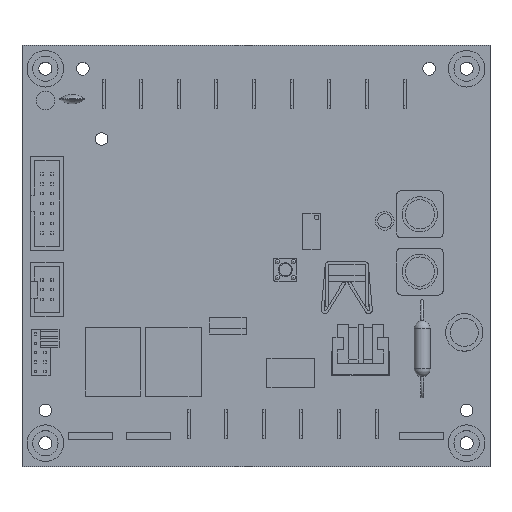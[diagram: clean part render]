
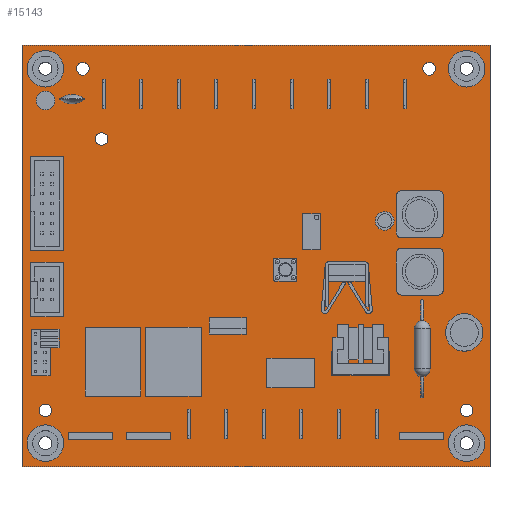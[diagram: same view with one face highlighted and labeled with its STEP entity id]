
A CAD part, top view. The second image highlights one B-rep face of the part: STEP entity #15143.
In plain terms, the highlighted planar face has unit normal (0, 0, 1).
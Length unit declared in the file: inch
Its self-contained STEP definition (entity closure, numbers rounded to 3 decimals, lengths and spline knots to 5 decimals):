
#512=FACE_BOUND('',#2481,.T.);
#513=FACE_BOUND('',#2482,.T.);
#514=FACE_BOUND('',#2483,.T.);
#515=FACE_BOUND('',#2484,.T.);
#516=FACE_BOUND('',#2485,.T.);
#517=FACE_BOUND('',#2486,.T.);
#518=FACE_BOUND('',#2487,.T.);
#519=FACE_BOUND('',#2488,.T.);
#520=FACE_BOUND('',#2489,.T.);
#1414=FACE_OUTER_BOUND('',#2480,.T.);
#2480=EDGE_LOOP('',(#13472,#13473,#13474,#13475));
#2481=EDGE_LOOP('',(#13476));
#2482=EDGE_LOOP('',(#13477));
#2483=EDGE_LOOP('',(#13478));
#2484=EDGE_LOOP('',(#13479));
#2485=EDGE_LOOP('',(#13480));
#2486=EDGE_LOOP('',(#13481));
#2487=EDGE_LOOP('',(#13482));
#2488=EDGE_LOOP('',(#13483));
#2489=EDGE_LOOP('',(#13484));
#2737=CIRCLE('',#16337,0.0675);
#2739=CIRCLE('',#16340,0.0675);
#2741=CIRCLE('',#16343,0.0675);
#2743=CIRCLE('',#16346,0.0675);
#2745=CIRCLE('',#16349,0.0675);
#2747=CIRCLE('',#16352,0.1175);
#2749=CIRCLE('',#16355,0.1175);
#2751=CIRCLE('',#16358,0.1175);
#2753=CIRCLE('',#16361,0.1175);
#4450=LINE('',#25301,#6158);
#4451=LINE('',#25303,#6159);
#4452=LINE('',#25305,#6160);
#4453=LINE('',#25306,#6161);
#6158=VECTOR('',#20336,0.3937);
#6159=VECTOR('',#20337,0.3937);
#6160=VECTOR('',#20338,0.3937);
#6161=VECTOR('',#20339,0.3937);
#7513=VERTEX_POINT('',#25256);
#7515=VERTEX_POINT('',#25261);
#7517=VERTEX_POINT('',#25266);
#7519=VERTEX_POINT('',#25271);
#7521=VERTEX_POINT('',#25276);
#7523=VERTEX_POINT('',#25281);
#7525=VERTEX_POINT('',#25286);
#7527=VERTEX_POINT('',#25291);
#7529=VERTEX_POINT('',#25296);
#7530=VERTEX_POINT('',#25299);
#7531=VERTEX_POINT('',#25300);
#7532=VERTEX_POINT('',#25302);
#7533=VERTEX_POINT('',#25304);
#9501=EDGE_CURVE('',#7513,#7513,#2737,.T.);
#9503=EDGE_CURVE('',#7515,#7515,#2739,.T.);
#9505=EDGE_CURVE('',#7517,#7517,#2741,.T.);
#9507=EDGE_CURVE('',#7519,#7519,#2743,.T.);
#9509=EDGE_CURVE('',#7521,#7521,#2745,.T.);
#9511=EDGE_CURVE('',#7523,#7523,#2747,.T.);
#9513=EDGE_CURVE('',#7525,#7525,#2749,.T.);
#9515=EDGE_CURVE('',#7527,#7527,#2751,.T.);
#9517=EDGE_CURVE('',#7529,#7529,#2753,.T.);
#9518=EDGE_CURVE('',#7530,#7531,#4450,.T.);
#9519=EDGE_CURVE('',#7531,#7532,#4451,.T.);
#9520=EDGE_CURVE('',#7532,#7533,#4452,.T.);
#9521=EDGE_CURVE('',#7533,#7530,#4453,.T.);
#13472=ORIENTED_EDGE('',*,*,#9518,.T.);
#13473=ORIENTED_EDGE('',*,*,#9519,.T.);
#13474=ORIENTED_EDGE('',*,*,#9520,.T.);
#13475=ORIENTED_EDGE('',*,*,#9521,.T.);
#13476=ORIENTED_EDGE('',*,*,#9501,.T.);
#13477=ORIENTED_EDGE('',*,*,#9503,.T.);
#13478=ORIENTED_EDGE('',*,*,#9505,.T.);
#13479=ORIENTED_EDGE('',*,*,#9507,.T.);
#13480=ORIENTED_EDGE('',*,*,#9509,.T.);
#13481=ORIENTED_EDGE('',*,*,#9511,.T.);
#13482=ORIENTED_EDGE('',*,*,#9513,.T.);
#13483=ORIENTED_EDGE('',*,*,#9515,.T.);
#13484=ORIENTED_EDGE('',*,*,#9517,.T.);
#14253=PLANE('',#16362);
#15143=ADVANCED_FACE('',(#1414,#512,#513,#514,#515,#516,#517,#518,#519,
#520),#14253,.T.);
#16337=AXIS2_PLACEMENT_3D('',#25257,#20284,#20285);
#16340=AXIS2_PLACEMENT_3D('',#25262,#20290,#20291);
#16343=AXIS2_PLACEMENT_3D('',#25267,#20296,#20297);
#16346=AXIS2_PLACEMENT_3D('',#25272,#20302,#20303);
#16349=AXIS2_PLACEMENT_3D('',#25277,#20308,#20309);
#16352=AXIS2_PLACEMENT_3D('',#25282,#20314,#20315);
#16355=AXIS2_PLACEMENT_3D('',#25287,#20320,#20321);
#16358=AXIS2_PLACEMENT_3D('',#25292,#20326,#20327);
#16361=AXIS2_PLACEMENT_3D('',#25297,#20332,#20333);
#16362=AXIS2_PLACEMENT_3D('',#25298,#20334,#20335);
#20284=DIRECTION('center_axis',(0.,0.,-1.));
#20285=DIRECTION('ref_axis',(-1.,0.,0.));
#20290=DIRECTION('center_axis',(0.,0.,-1.));
#20291=DIRECTION('ref_axis',(0.,-1.,0.));
#20296=DIRECTION('center_axis',(0.,0.,-1.));
#20297=DIRECTION('ref_axis',(0.,-1.,0.));
#20302=DIRECTION('center_axis',(0.,0.,-1.));
#20303=DIRECTION('ref_axis',(0.,-1.,0.));
#20308=DIRECTION('center_axis',(0.,0.,-1.));
#20309=DIRECTION('ref_axis',(0.,-1.,0.));
#20314=DIRECTION('center_axis',(0.,0.,-1.));
#20315=DIRECTION('ref_axis',(-1.,0.,0.));
#20320=DIRECTION('center_axis',(0.,0.,-1.));
#20321=DIRECTION('ref_axis',(1.,0.,0.));
#20326=DIRECTION('center_axis',(0.,0.,-1.));
#20327=DIRECTION('ref_axis',(1.,0.,0.));
#20332=DIRECTION('center_axis',(0.,0.,-1.));
#20333=DIRECTION('ref_axis',(-1.,0.,0.));
#20334=DIRECTION('center_axis',(0.,0.,1.));
#20335=DIRECTION('ref_axis',(1.,0.,0.));
#20336=DIRECTION('',(0.,1.,0.));
#20337=DIRECTION('',(-1.,0.,0.));
#20338=DIRECTION('',(0.,-1.,0.));
#20339=DIRECTION('',(1.,0.,0.));
#25256=CARTESIAN_POINT('',(1.82397,4.37691,0.095));
#25257=CARTESIAN_POINT('Origin',(1.75647,4.37691,0.095));
#25261=CARTESIAN_POINT('',(1.15647,1.54441,0.095));
#25262=CARTESIAN_POINT('Origin',(1.15647,1.47691,0.095));
#25266=CARTESIAN_POINT('',(5.65647,1.54441,0.095));
#25267=CARTESIAN_POINT('Origin',(5.65647,1.47691,0.095));
#25271=CARTESIAN_POINT('',(5.25647,5.19441,0.095));
#25272=CARTESIAN_POINT('Origin',(5.25647,5.12691,0.095));
#25276=CARTESIAN_POINT('',(1.55647,5.19441,0.095));
#25277=CARTESIAN_POINT('Origin',(1.55647,5.12691,0.095));
#25281=CARTESIAN_POINT('',(5.77397,1.12691,0.095));
#25282=CARTESIAN_POINT('Origin',(5.65647,1.12691,0.095));
#25286=CARTESIAN_POINT('',(1.03897,5.12691,0.095));
#25287=CARTESIAN_POINT('Origin',(1.15647,5.12691,0.095));
#25291=CARTESIAN_POINT('',(1.03897,1.12691,0.095));
#25292=CARTESIAN_POINT('Origin',(1.15647,1.12691,0.095));
#25296=CARTESIAN_POINT('',(5.77397,5.12691,0.095));
#25297=CARTESIAN_POINT('Origin',(5.65647,5.12691,0.095));
#25298=CARTESIAN_POINT('Origin',(3.40647,0.87691,0.095));
#25299=CARTESIAN_POINT('',(5.90647,0.87691,0.095));
#25300=CARTESIAN_POINT('',(5.90647,5.37691,0.095));
#25301=CARTESIAN_POINT('',(5.90647,0.87691,0.095));
#25302=CARTESIAN_POINT('',(0.90647,5.37691,0.095));
#25303=CARTESIAN_POINT('',(5.90647,5.37691,0.095));
#25304=CARTESIAN_POINT('',(0.90647,0.87691,0.095));
#25305=CARTESIAN_POINT('',(0.90647,5.37691,0.095));
#25306=CARTESIAN_POINT('',(0.90647,0.87691,0.095));
